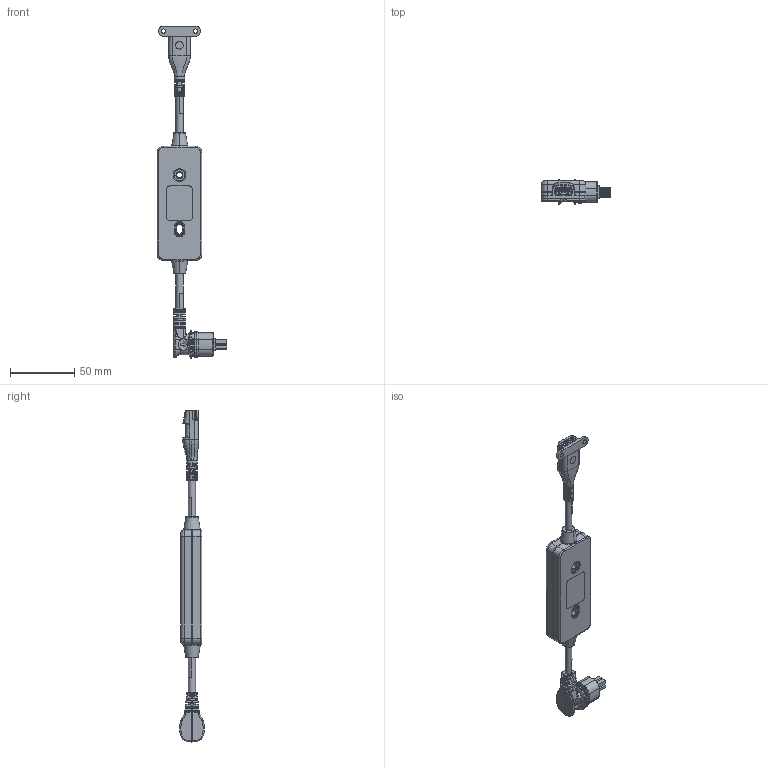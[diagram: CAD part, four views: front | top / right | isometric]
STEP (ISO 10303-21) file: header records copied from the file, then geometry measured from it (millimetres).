
FILE_DESCRIPTION((''),'2;1');
FILE_NAME('USBAM_SOLID','2022-03-09T10:40:37',('usmmi'),(''),'CREO PARAMETRIC BY PTC INC, 2020454','CREO PARAMETRIC BY PTC INC, 2020454','');
FILE_SCHEMA(('CONFIG_CONTROL_DESIGN'));
Products named in the file (1): USBAM_SOLID
Bounding box: 54.5 x 19.13 x 258.82 mm (x, y, z)
Volume: 66419.4 mm3; surface area: 22956.5 mm2
Topology: 1 solids, 8 shells, 1614 faces, 3951 edges, 2380 vertices
Faces by surface type: plane 524, cylinder 505, torus 255, bspline 233, cone 66, extrusion 18, sphere 11, revolution 2
Entity records: 60878 total; most frequent: CARTESIAN_POINT 24771, ORIENTED_EDGE 7880, DIRECTION 7036, EDGE_CURVE 3940, AXIS2_PLACEMENT_3D 2600, VERTEX_POINT 2380, VECTOR 1834, LINE 1816
